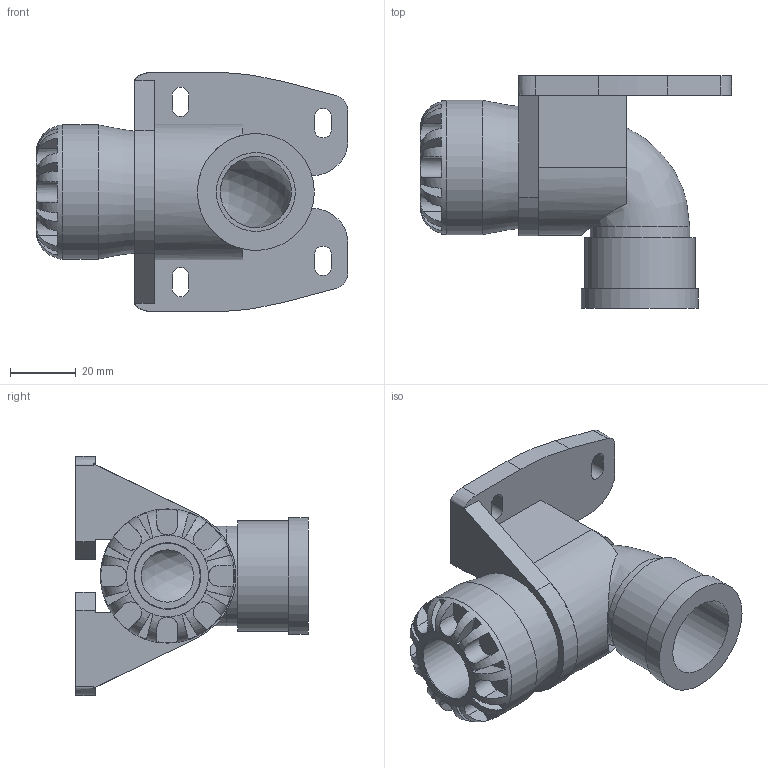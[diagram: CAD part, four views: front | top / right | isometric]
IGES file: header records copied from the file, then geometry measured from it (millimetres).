
Global section: file name: 107500020007.ipt; native system: Autodesk Inventor 2015; preprocessor: unknown; author: KIM; date: 20170122.114645; units: millimetre
Bounding box: 95 x 71 x 73 mm (x, y, z)
Volume: 95313.9 mm3; surface area: 39079.4 mm2
Topology: 2 solids, 2 shells, 148 faces, 399 edges, 260 vertices
Faces by surface type: plane 96, revolution 27, cylinder 15, bspline 10
Full cylindrical faces by diameter (mm): 30.387 x1, 33.764 x1, 35.693 x1, 36.08 x1, 41 x1
